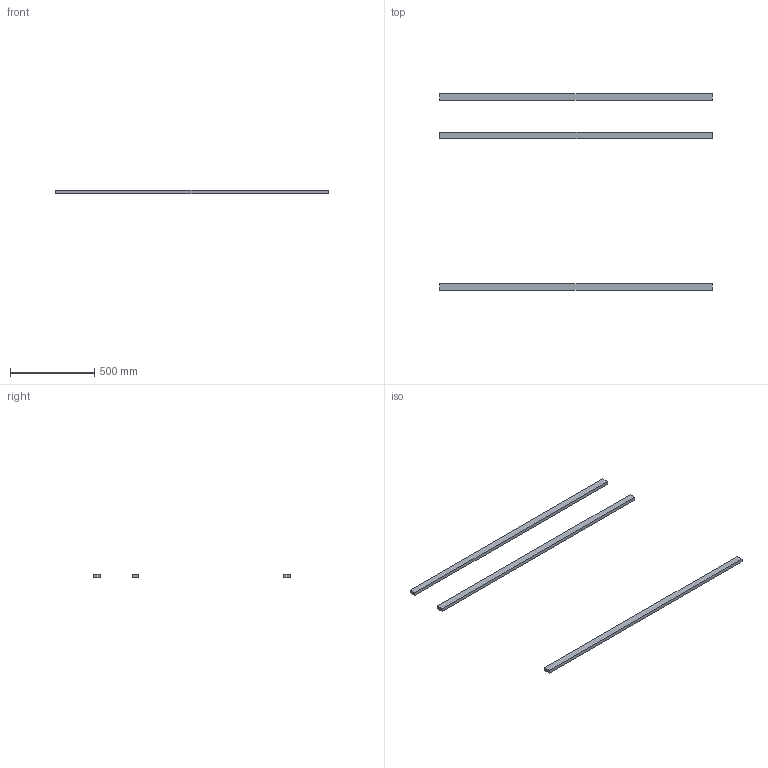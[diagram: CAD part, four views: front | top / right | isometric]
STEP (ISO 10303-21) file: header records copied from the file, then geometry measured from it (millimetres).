
FILE_DESCRIPTION(/* description */ (''),/* implementation_level */ '2;1');
FILE_NAME(/* name */ '1.frame-bottom#1.1#HFS5-2040-1620',/* time_stamp */ '2014-12-01T20:10:34+01:00',/* author */ (''),/* organization */ (''),/* preprocessor_version */ 'ST-DEVELOPER v14',/* originating_system */ '',/* authorisation */ '');
FILE_SCHEMA (('AUTOMOTIVE_DESIGN'));
Length unit declared in the file: millimetre
Products named in the file (1): Document
Bounding box: 1620 x 1170 x 20 mm (x, y, z)
Volume: 3888000 mm3; surface area: 588000 mm2
Topology: 3 solids, 3 shells, 18 faces, 36 edges, 24 vertices
Faces by surface type: plane 18
Entity records: 844 total; most frequent: CARTESIAN_POINT 260, B_SPLINE_CURVE_WITH_KNOTS 108, ORIENTED_EDGE 72, PCURVE 72, DEFINITIONAL_REPRESENTATION 72, SURFACE_CURVE 36, EDGE_CURVE 36, VERTEX_POINT 24
